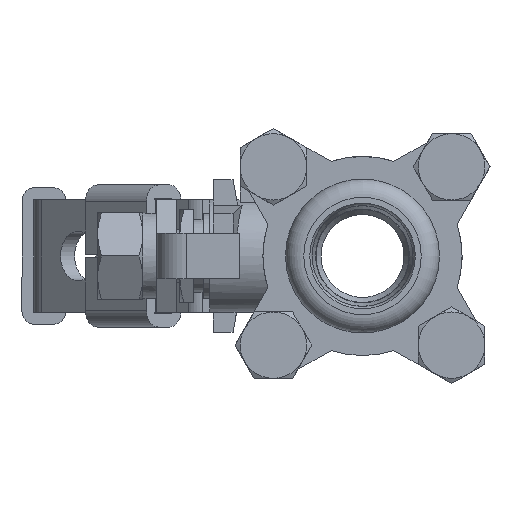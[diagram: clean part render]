
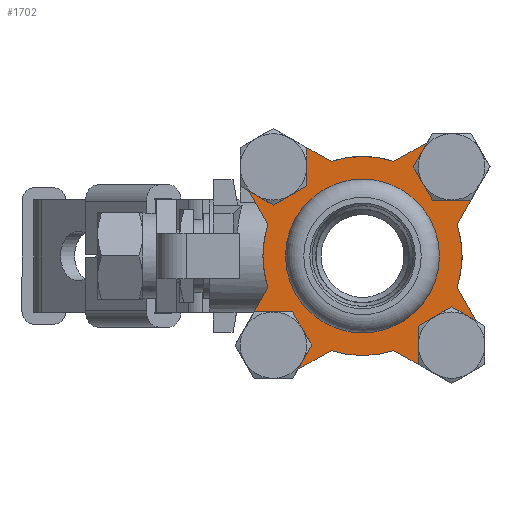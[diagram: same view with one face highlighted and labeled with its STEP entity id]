
A CAD part, front view. The second image highlights one B-rep face of the part: STEP entity #1702.
In plain terms, the highlighted planar face has unit normal (0, -1, 0).
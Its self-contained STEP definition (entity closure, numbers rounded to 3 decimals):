
#1702=ADVANCED_FACE('',(#3176,#3177,#3178,#3179,#3180,#3181),#3182,.T.);
#3176=FACE_BOUND('',#4683,.T.);
#3177=FACE_BOUND('',#4684,.T.);
#3178=FACE_BOUND('',#4685,.T.);
#3179=FACE_BOUND('',#4686,.T.);
#3180=FACE_BOUND('',#4687,.T.);
#3181=FACE_OUTER_BOUND('',#4688,.T.);
#3182=PLANE('',#4689);
#4683=EDGE_LOOP('',(#7659));
#4684=EDGE_LOOP('',(#7660));
#4685=EDGE_LOOP('',(#7661));
#4686=EDGE_LOOP('',(#7662));
#4687=EDGE_LOOP('',(#7663));
#4688=EDGE_LOOP('',(#7664,#7665,#7666,#7667,#7668,#7669,#7670,#7671,#7672,#7673,#7674,#7675,#7676,#7677,#7678,#7679));
#4689=AXIS2_PLACEMENT_3D('',#7680,#7681,#7682);
#7659=ORIENTED_EDGE('',*,*,#8849,.F.);
#7660=ORIENTED_EDGE('',*,*,#8794,.F.);
#7661=ORIENTED_EDGE('',*,*,#8799,.F.);
#7662=ORIENTED_EDGE('',*,*,#8801,.F.);
#7663=ORIENTED_EDGE('',*,*,#8803,.F.);
#7664=ORIENTED_EDGE('',*,*,#8785,.F.);
#7665=ORIENTED_EDGE('',*,*,#8797,.F.);
#7666=ORIENTED_EDGE('',*,*,#8806,.F.);
#7667=ORIENTED_EDGE('',*,*,#8809,.F.);
#7668=ORIENTED_EDGE('',*,*,#8813,.F.);
#7669=ORIENTED_EDGE('',*,*,#8816,.F.);
#7670=ORIENTED_EDGE('',*,*,#8819,.F.);
#7671=ORIENTED_EDGE('',*,*,#8822,.F.);
#7672=ORIENTED_EDGE('',*,*,#8826,.F.);
#7673=ORIENTED_EDGE('',*,*,#8829,.F.);
#7674=ORIENTED_EDGE('',*,*,#8832,.F.);
#7675=ORIENTED_EDGE('',*,*,#8835,.F.);
#7676=ORIENTED_EDGE('',*,*,#8839,.F.);
#7677=ORIENTED_EDGE('',*,*,#8842,.F.);
#7678=ORIENTED_EDGE('',*,*,#8845,.F.);
#7679=ORIENTED_EDGE('',*,*,#8847,.F.);
#7680=CARTESIAN_POINT('',(0.,-18.4,0.));
#7681=DIRECTION('',(0.,-1.0,0.));
#7682=DIRECTION('',(0.,0.,-1.0));
#8785=EDGE_CURVE('',#10408,#10410,#10411,.T.);
#8794=EDGE_CURVE('',#10424,#10424,#10425,.T.);
#8797=EDGE_CURVE('',#10427,#10408,#10429,.T.);
#8799=EDGE_CURVE('',#10431,#10431,#10432,.T.);
#8801=EDGE_CURVE('',#10434,#10434,#10435,.T.);
#8803=EDGE_CURVE('',#10437,#10437,#10438,.T.);
#8806=EDGE_CURVE('',#10440,#10427,#10442,.T.);
#8809=EDGE_CURVE('',#10444,#10440,#10446,.T.);
#8813=EDGE_CURVE('',#10449,#10444,#10451,.T.);
#8816=EDGE_CURVE('',#10453,#10449,#10455,.T.);
#8819=EDGE_CURVE('',#10457,#10453,#10459,.T.);
#8822=EDGE_CURVE('',#10461,#10457,#10463,.T.);
#8826=EDGE_CURVE('',#10466,#10461,#10468,.T.);
#8829=EDGE_CURVE('',#10470,#10466,#10472,.T.);
#8832=EDGE_CURVE('',#10474,#10470,#10476,.T.);
#8835=EDGE_CURVE('',#10478,#10474,#10480,.T.);
#8839=EDGE_CURVE('',#10483,#10478,#10485,.T.);
#8842=EDGE_CURVE('',#10487,#10483,#10489,.T.);
#8845=EDGE_CURVE('',#10491,#10487,#10493,.T.);
#8847=EDGE_CURVE('',#10410,#10491,#10495,.T.);
#8849=EDGE_CURVE('',#10497,#10497,#10498,.F.);
#10408=VERTEX_POINT('',#13227);
#10410=VERTEX_POINT('',#13230);
#10411=CIRCLE('',#13231,15.0);
#10424=VERTEX_POINT('',#13247);
#10425=CIRCLE('',#13248,3.1);
#10427=VERTEX_POINT('',#13250);
#10429=LINE('',#13253,#13254);
#10431=VERTEX_POINT('',#13256);
#10432=CIRCLE('',#13257,3.1);
#10434=VERTEX_POINT('',#13259);
#10435=CIRCLE('',#13260,3.1);
#10437=VERTEX_POINT('',#13262);
#10438=CIRCLE('',#13263,3.1);
#10440=VERTEX_POINT('',#13265);
#10442=CIRCLE('',#13268,5.0);
#10444=VERTEX_POINT('',#13270);
#10446=LINE('',#13273,#13274);
#10449=VERTEX_POINT('',#13277);
#10451=CIRCLE('',#13280,15.);
#10453=VERTEX_POINT('',#13282);
#10455=LINE('',#13285,#13286);
#10457=VERTEX_POINT('',#13288);
#10459=CIRCLE('',#13291,5.);
#10461=VERTEX_POINT('',#13293);
#10463=LINE('',#13296,#13297);
#10466=VERTEX_POINT('',#13300);
#10468=CIRCLE('',#13303,15.);
#10470=VERTEX_POINT('',#13305);
#10472=LINE('',#13308,#13309);
#10474=VERTEX_POINT('',#13311);
#10476=CIRCLE('',#13314,5.);
#10478=VERTEX_POINT('',#13316);
#10480=LINE('',#13319,#13320);
#10483=VERTEX_POINT('',#13323);
#10485=CIRCLE('',#13326,15.0);
#10487=VERTEX_POINT('',#13328);
#10489=LINE('',#13331,#13332);
#10491=VERTEX_POINT('',#13334);
#10493=CIRCLE('',#13337,5.0);
#10495=LINE('',#13339,#13340);
#10497=VERTEX_POINT('',#13342);
#10498=CIRCLE('',#13343,10.0);
#13227=CARTESIAN_POINT('',(4.708,-18.4,-14.242));
#13230=CARTESIAN_POINT('',(-4.707,-18.4,-14.242));
#13231=AXIS2_PLACEMENT_3D('',#14503,#14504,#14505);
#13247=CARTESIAN_POINT('',(13.435,-18.4,-10.335));
#13248=AXIS2_PLACEMENT_3D('',#14518,#14519,#14520);
#13250=CARTESIAN_POINT('',(10.973,-18.4,-17.787));
#13253=CARTESIAN_POINT('',(10.973,-18.4,-17.787));
#13254=VECTOR('',#14522,1.0);
#13256=CARTESIAN_POINT('',(-13.435,-18.4,16.535));
#13257=AXIS2_PLACEMENT_3D('',#14523,#14524,#14525);
#13259=CARTESIAN_POINT('',(-13.435,-18.4,-10.335));
#13260=AXIS2_PLACEMENT_3D('',#14526,#14527,#14528);
#13262=CARTESIAN_POINT('',(13.435,-18.4,16.535));
#13263=AXIS2_PLACEMENT_3D('',#14529,#14530,#14531);
#13265=CARTESIAN_POINT('',(17.787,-18.4,-10.973));
#13268=AXIS2_PLACEMENT_3D('',#14533,#14534,#14535);
#13270=CARTESIAN_POINT('',(14.242,-18.4,-4.707));
#13273=CARTESIAN_POINT('',(14.242,-18.4,-4.707));
#13274=VECTOR('',#14537,1.0);
#13277=CARTESIAN_POINT('',(14.242,-18.4,4.708));
#13280=AXIS2_PLACEMENT_3D('',#14542,#14543,#14544);
#13282=CARTESIAN_POINT('',(17.787,-18.4,10.973));
#13285=CARTESIAN_POINT('',(17.787,-18.4,10.973));
#13286=VECTOR('',#14546,1.0);
#13288=CARTESIAN_POINT('',(10.973,-18.4,17.787));
#13291=AXIS2_PLACEMENT_3D('',#14548,#14549,#14550);
#13293=CARTESIAN_POINT('',(4.707,-18.4,14.242));
#13296=CARTESIAN_POINT('',(4.707,-18.4,14.242));
#13297=VECTOR('',#14552,1.0);
#13300=CARTESIAN_POINT('',(-4.708,-18.4,14.242));
#13303=AXIS2_PLACEMENT_3D('',#14557,#14558,#14559);
#13305=CARTESIAN_POINT('',(-10.973,-18.4,17.787));
#13308=CARTESIAN_POINT('',(-10.973,-18.4,17.787));
#13309=VECTOR('',#14561,1.0);
#13311=CARTESIAN_POINT('',(-17.787,-18.4,10.973));
#13314=AXIS2_PLACEMENT_3D('',#14563,#14564,#14565);
#13316=CARTESIAN_POINT('',(-14.242,-18.4,4.707));
#13319=CARTESIAN_POINT('',(-14.242,-18.4,4.707));
#13320=VECTOR('',#14567,1.0);
#13323=CARTESIAN_POINT('',(-14.242,-18.4,-4.708));
#13326=AXIS2_PLACEMENT_3D('',#14572,#14573,#14574);
#13328=CARTESIAN_POINT('',(-17.787,-18.4,-10.973));
#13331=CARTESIAN_POINT('',(-17.787,-18.4,-10.973));
#13332=VECTOR('',#14576,1.0);
#13334=CARTESIAN_POINT('',(-10.973,-18.4,-17.787));
#13337=AXIS2_PLACEMENT_3D('',#14578,#14579,#14580);
#13339=CARTESIAN_POINT('',(-4.707,-18.4,-14.242));
#13340=VECTOR('',#14581,1.0);
#13342=CARTESIAN_POINT('',(10.0,-18.4,0.));
#13343=AXIS2_PLACEMENT_3D('',#14582,#14583,#14584);
#14503=CARTESIAN_POINT('',(0.,-18.4,0.));
#14504=DIRECTION('',(0.,1.0,0.));
#14505=DIRECTION('',(0.,0.,-1.0));
#14518=CARTESIAN_POINT('',(13.435,-18.4,-13.435));
#14519=DIRECTION('',(0.,-1.0,0.));
#14520=DIRECTION('',(0.,0.,1.0));
#14522=DIRECTION('',(-0.87,0.,0.492));
#14523=CARTESIAN_POINT('',(-13.435,-18.4,13.435));
#14524=DIRECTION('',(0.,-1.0,0.));
#14525=DIRECTION('',(0.,0.,1.0));
#14526=CARTESIAN_POINT('',(-13.435,-18.4,-13.435));
#14527=DIRECTION('',(0.,-1.0,0.));
#14528=DIRECTION('',(0.,0.,1.0));
#14529=CARTESIAN_POINT('',(13.435,-18.4,13.435));
#14530=DIRECTION('',(0.,-1.0,0.));
#14531=DIRECTION('',(0.,0.,1.0));
#14533=CARTESIAN_POINT('',(13.435,-18.4,-13.435));
#14534=DIRECTION('',(0.,1.0,0.));
#14535=DIRECTION('',(0.,0.,-1.0));
#14537=DIRECTION('',(0.492,0.,-0.87));
#14542=CARTESIAN_POINT('',(0.,-18.4,0.));
#14543=DIRECTION('',(0.,1.0,0.));
#14544=DIRECTION('',(0.,0.,-1.0));
#14546=DIRECTION('',(-0.492,0.,-0.87));
#14548=CARTESIAN_POINT('',(13.435,-18.4,13.435));
#14549=DIRECTION('',(0.,1.0,0.));
#14550=DIRECTION('',(0.,0.,-1.0));
#14552=DIRECTION('',(0.87,0.,0.492));
#14557=CARTESIAN_POINT('',(0.,-18.4,0.));
#14558=DIRECTION('',(0.,1.0,0.));
#14559=DIRECTION('',(0.,0.,-1.0));
#14561=DIRECTION('',(0.87,0.,-0.492));
#14563=CARTESIAN_POINT('',(-13.435,-18.4,13.435));
#14564=DIRECTION('',(0.,1.0,0.));
#14565=DIRECTION('',(0.,0.,-1.0));
#14567=DIRECTION('',(-0.492,0.,0.87));
#14572=CARTESIAN_POINT('',(0.,-18.4,0.));
#14573=DIRECTION('',(0.,1.0,0.));
#14574=DIRECTION('',(0.,0.,-1.0));
#14576=DIRECTION('',(0.492,0.,0.87));
#14578=CARTESIAN_POINT('',(-13.435,-18.4,-13.435));
#14579=DIRECTION('',(0.,1.0,0.));
#14580=DIRECTION('',(0.,0.,-1.0));
#14581=DIRECTION('',(-0.87,0.,-0.492));
#14582=CARTESIAN_POINT('',(0.,-18.4,0.));
#14583=DIRECTION('',(0.,1.0,0.));
#14584=DIRECTION('',(1.0,0.,0.));
